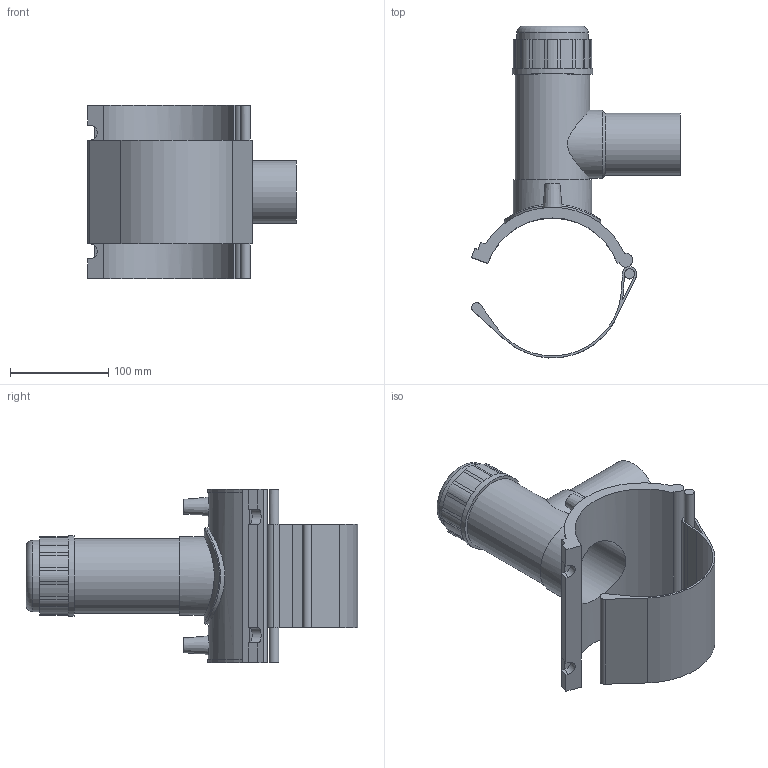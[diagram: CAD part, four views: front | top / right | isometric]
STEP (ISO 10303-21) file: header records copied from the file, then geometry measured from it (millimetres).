
FILE_DESCRIPTION(/* description */ ('PLASSON TAPPING TEE SADDLE 140mm x 63mm'),/* implementation_level */ '2;1');
FILE_NAME(/* name */ 'C:\Dropbox\KIMPROJECTS-Inventor 2019\99-16-3568-Processing\ElectroFusion Fittings\491304\491304140063.stp',/* time_stamp */ '2023-03-23T11:28:38+02:00',/* author */ ('KIM'),/* organization */ (''),/* preprocessor_version */ 'ST-DEVELOPER v17.2',/* originating_system */ 'Autodesk Inventor 2019',/* authorisation */ '');
FILE_SCHEMA (('AUTOMOTIVE_DESIGN { 1 0 10303 214 3 1 1 }'));
Length unit declared in the file: millimetre
Products named in the file (1): 491304140063
Bounding box: 212.22 x 336.98 x 176 mm (x, y, z)
Volume: 889672.8 mm3; surface area: 255591.4 mm2
Topology: 2 solids, 2 shells, 108 faces, 282 edges, 193 vertices
Faces by surface type: plane 59, cylinder 44, cone 3, bspline 1, torus 1
Full cylindrical faces by diameter (mm): 4 x2, 10 x3, 50.4 x1, 63 x1, 69.3 x1, 69.6 x1, 72.45 x1, 75.6 x1, 79.6 x1, 81.9 x1, 97.65 x1
Entity records: 3971 total; most frequent: CARTESIAN_POINT 1160, DIRECTION 590, ORIENTED_EDGE 566, EDGE_CURVE 283, AXIS2_PLACEMENT_3D 216, VERTEX_POINT 195, LINE 158, VECTOR 158
